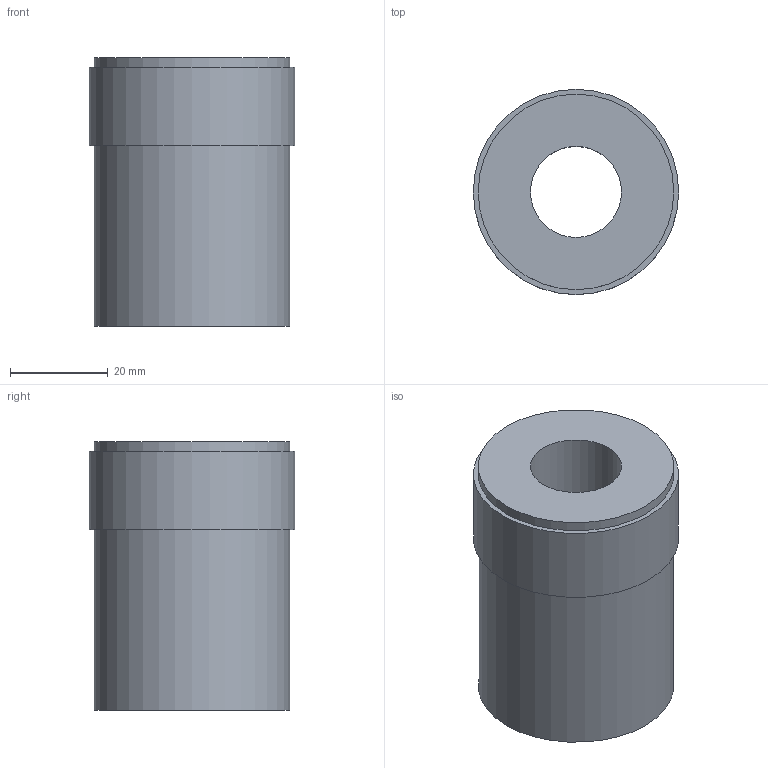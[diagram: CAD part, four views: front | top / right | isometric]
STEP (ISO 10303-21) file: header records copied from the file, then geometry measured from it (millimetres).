
FILE_DESCRIPTION(/* description */ (''),/* implementation_level */ '2;1');
FILE_NAME(/* name */ 'Z:\Geberit\Export\NewStep\360719.stp',/* time_stamp */ '2014-04-01T21:01:56+02:00',/* author */ ('nelson'),/* organization */ (''),/* preprocessor_version */ 'ST-DEVELOPER v15.2',/* originating_system */ 'Autodesk Inventor 2014',/* authorisation */ '');
FILE_SCHEMA (('AUTOMOTIVE_DESIGN { 1 0 10303 214 3 1 1 }'));
Length unit declared in the file: millimetre
Products named in the file (1): 360719
Bounding box: 42 x 42 x 55 mm (x, y, z)
Volume: 33448.5 mm3; surface area: 13873.9 mm2
Topology: 1 solids, 1 shells, 11 faces, 21 edges, 14 vertices
Faces by surface type: cylinder 5, plane 4, torus 1, cone 1
Full cylindrical faces by diameter (mm): 18.631 x1, 34 x1, 40 x2, 42 x1
Entity records: 259 total; most frequent: DIRECTION 46, CARTESIAN_POINT 34, AXIS2_PLACEMENT_3D 23, EDGE_LOOP 22, ORIENTED_EDGE 22, FACE_BOUND 14, CIRCLE 11, VERTEX_POINT 11
